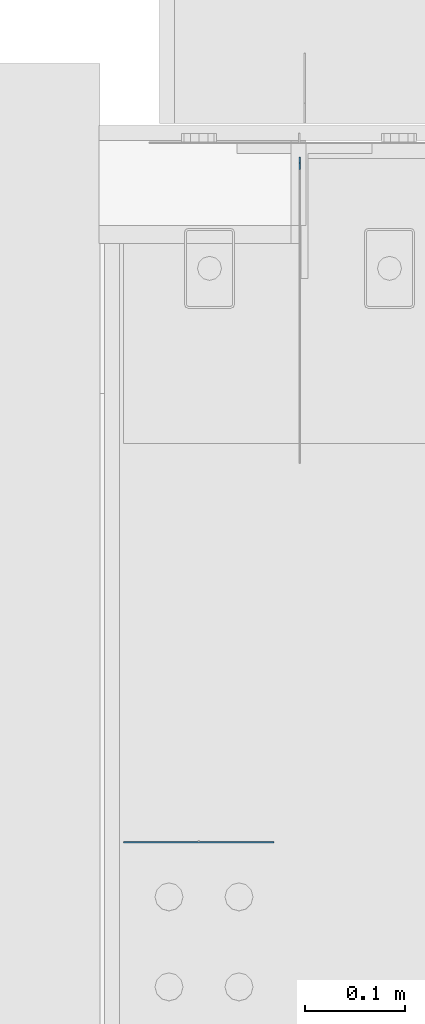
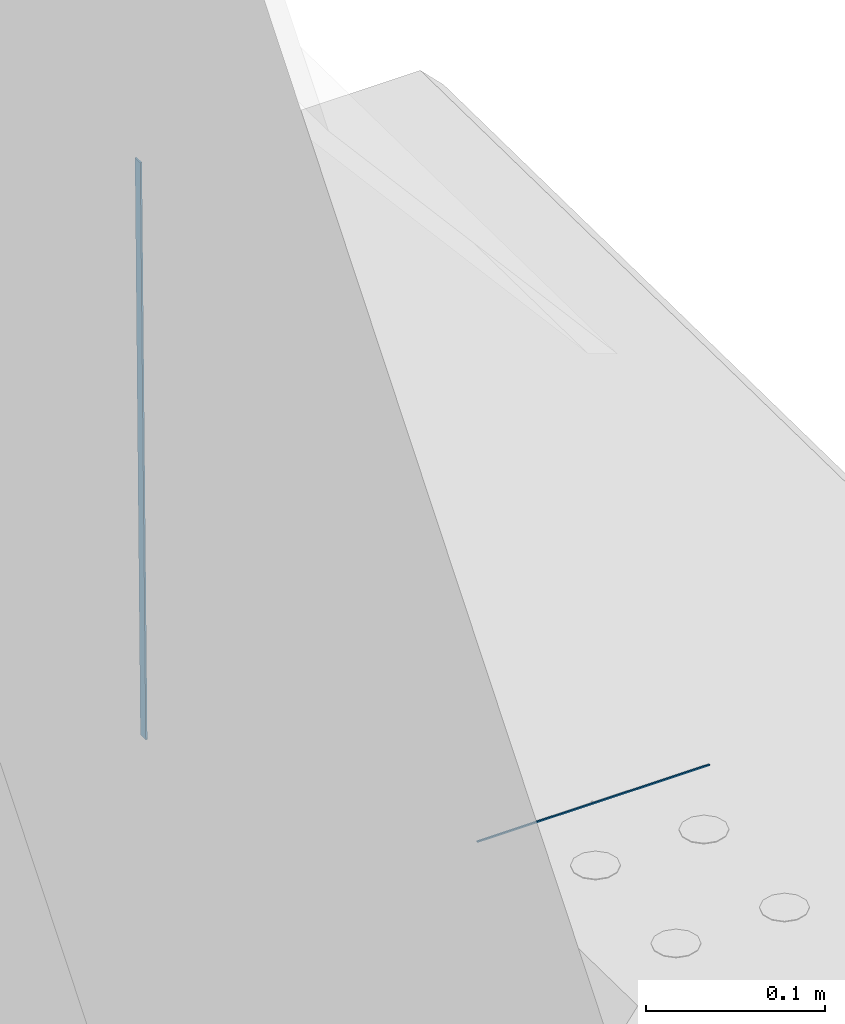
# One storey, part 16 of 186: 2 beams.
"""IFC4X3_ADD2 building model written with IfcOpenShell, lengths in millimetres."""

from ifc_helpers import new_model, si_unit, direction, frame, frame_2d, origin_with_axes, place, context, subcontext, project, spatial, rectangle, extrude, material, element, save


model = new_model("IFC4X3_ADD2")

# Units and contexts
model_context = context("Model", 3, precision=1e-05, world=origin_with_axes(), true_north=direction((0.0, 1.0)))
body_context = subcontext(model_context, "Body", "Model", "MODEL_VIEW")
ifc_project = project(units=[si_unit("LENGTHUNIT", "METRE", prefix="MILLI"), si_unit("AREAUNIT", "SQUARE_METRE"), si_unit("VOLUMEUNIT", "CUBIC_METRE"), si_unit("PLANEANGLEUNIT", "RADIAN"), si_unit("TIMEUNIT", "SECOND"), si_unit("MASSUNIT", "GRAM")], contexts=[model_context])

# Site, building, storey
site_placement = place(None, origin_with_axes())
site = spatial("IfcSite", under=ifc_project, at=site_placement, Name="Site", CompositionType="ELEMENT")
building_placement = place(site_placement, origin_with_axes())
building = spatial("IfcBuilding", under=site, at=building_placement, Name="IFC Building Story")
storey_placement = place(building_placement, frame((0.0, 0.0, 4370.0), z_axis=(0.0, 0.0, 1.0), x_axis=(1.0, 0.0, 0.0)))
storey = spatial("IfcBuildingStorey", under=building, at=storey_placement, Name="ETAGE 10 (1)", Elevation=4370.0)

# Beams
ifc_material = material(Name="STEEL/Accessory_invisible 261")
beam_1_placement = place(storey_placement, frame((33401.6876988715, -19.81511316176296, 2955.18722072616), z_axis=(-1.0, 0.0, 0.0), x_axis=(0.0, 0.01553280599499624, 0.9998793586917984)))
element("IfcBeam", 1, at=beam_1_placement, inside=storey, material=ifc_material, Name="BEK4", ObjectType="6*1 4", context=body_context, shape_type="SweptSolid", body=[
    extrude(rectangle(XDim=390.000000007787, YDim=5.99999999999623, at=frame_2d((0.0, 5.95523630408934e-12), x_axis=(1.0, 0.0))), origin_with_axes(), (0.0, 0.0, 1.0), 1.0),
])
beam_2_placement = place(storey_placement, frame((33375.683164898, -698.977014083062, 3160.36671397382), z_axis=(-1.0, 0.0, 0.0), x_axis=(0.0, 0.9998873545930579, -0.01500926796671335)))
element("IfcBeam", 2, at=beam_2_placement, inside=storey, material=ifc_material, Name="54", ObjectType="1*1 3", context=body_context, shape_type="SweptSolid", body=[
    extrude(rectangle(XDim=0.9999999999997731, YDim=0.9999999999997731, at=frame_2d((0.0, 5.95523630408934e-12), x_axis=(1.0, 0.0))), origin_with_axes(), (0.0, 0.0, 1.0), 150.0),
])

save(model, "model.ifc")
